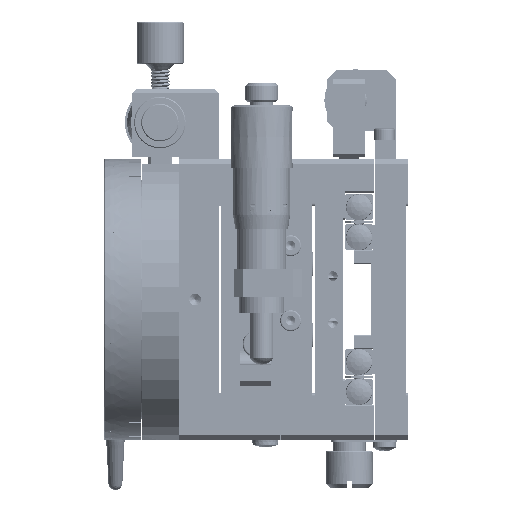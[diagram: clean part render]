
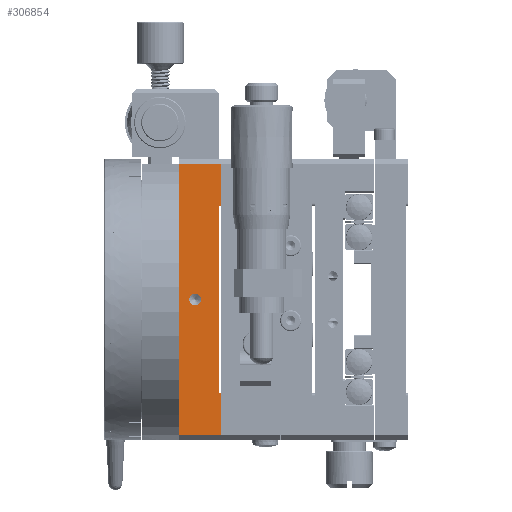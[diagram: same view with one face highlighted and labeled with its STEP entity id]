
A CAD part, left-side view. The second image highlights one B-rep face of the part: STEP entity #306854.
In plain terms, the highlighted planar face has unit normal (-1, 0, 0).
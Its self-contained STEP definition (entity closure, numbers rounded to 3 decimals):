
#1898 = VERTEX_POINT ( 'NONE', #326189 ) ;
#9456 = VERTEX_POINT ( 'NONE', #124717 ) ;
#9971 = LINE ( 'NONE', #13594, #19813 ) ;
#13594 = CARTESIAN_POINT ( 'NONE',  ( -5.161, 61.734, 9.526 ) ) ;
#19813 = VECTOR ( 'NONE', #178521, 1000. ) ;
#33230 = ORIENTED_EDGE ( 'NONE', *, *, #120373, .F. ) ;
#38783 = CARTESIAN_POINT ( 'NONE',  ( -5.161, 70.734, 20.526 ) ) ;
#40155 = VECTOR ( 'NONE', #354498, 1000. ) ;
#44001 = VERTEX_POINT ( 'NONE', #180701 ) ;
#45933 = ORIENTED_EDGE ( 'NONE', *, *, #116168, .F. ) ;
#46695 = CARTESIAN_POINT ( 'NONE',  ( -5.161, 65.984, 38.526 ) ) ;
#49897 = ORIENTED_EDGE ( 'NONE', *, *, #124668, .T. ) ;
#60315 = ORIENTED_EDGE ( 'NONE', *, *, #312095, .T. ) ;
#60417 = CARTESIAN_POINT ( 'NONE',  ( -5.161, 70.734, 9.526 ) ) ;
#62248 = VERTEX_POINT ( 'NONE', #69317 ) ;
#63943 = DIRECTION ( 'NONE',  ( -1., 0., 0. ) ) ;
#65068 = EDGE_CURVE ( 'NONE', #289056, #110673, #9971, .T. ) ;
#69317 = CARTESIAN_POINT ( 'NONE',  ( -5.161, 61.734, 58.526 ) ) ;
#72891 = EDGE_CURVE ( 'NONE', #1898, #44001, #161106, .T. ) ;
#79260 = CIRCLE ( 'NONE', #278076, 1.25 ) ;
#82456 = CARTESIAN_POINT ( 'NONE',  ( -5.161, 61.734, 67.526 ) ) ;
#88293 = LINE ( 'NONE', #284383, #114762 ) ;
#102501 = CARTESIAN_POINT ( 'NONE',  ( -5.161, 62.234, 18.526 ) ) ;
#103697 = EDGE_LOOP ( 'NONE', ( #45933 ) ) ;
#105510 = VERTEX_POINT ( 'NONE', #82456 ) ;
#110673 = VERTEX_POINT ( 'NONE', #236315 ) ;
#114762 = VECTOR ( 'NONE', #145091, 1000. ) ;
#116168 = EDGE_CURVE ( 'NONE', #134532, #134532, #79260, .T. ) ;
#120373 = EDGE_CURVE ( 'NONE', #246040, #9456, #355710, .T. ) ;
#122793 = DIRECTION ( 'NONE',  ( 0., 0., 1. ) ) ;
#124668 = EDGE_CURVE ( 'NONE', #105510, #9456, #242324, .T. ) ;
#124717 = CARTESIAN_POINT ( 'NONE',  ( -5.161, 70.734, 67.526 ) ) ;
#134532 = VERTEX_POINT ( 'NONE', #46695 ) ;
#135771 = DIRECTION ( 'NONE',  ( 0., 0., 1. ) ) ;
#137295 = VECTOR ( 'NONE', #335995, 1000. ) ;
#139319 = VERTEX_POINT ( 'NONE', #228915 ) ;
#141933 = ORIENTED_EDGE ( 'NONE', *, *, #172834, .T. ) ;
#145091 = DIRECTION ( 'NONE',  ( 0., 0., -1. ) ) ;
#147031 = DIRECTION ( 'NONE',  ( -1., 0., 0. ) ) ;
#148201 = DIRECTION ( 'NONE',  ( 0., 0., 1. ) ) ;
#148436 = LINE ( 'NONE', #232769, #274502 ) ;
#150044 = EDGE_CURVE ( 'NONE', #246040, #289056, #88293, .T. ) ;
#161106 = LINE ( 'NONE', #102501, #272693 ) ;
#162022 = LINE ( 'NONE', #239214, #40155 ) ;
#163714 = ORIENTED_EDGE ( 'NONE', *, *, #72891, .T. ) ;
#172834 = EDGE_CURVE ( 'NONE', #62248, #105510, #162022, .T. ) ;
#173895 = FACE_BOUND ( 'NONE', #103697, .T. ) ;
#177258 = AXIS2_PLACEMENT_3D ( 'NONE', #314962, #63943, #148201 ) ;
#178521 = DIRECTION ( 'NONE',  ( 0., -1., 0. ) ) ;
#180701 = CARTESIAN_POINT ( 'NONE',  ( -5.161, 62.234, 18.526 ) ) ;
#200408 = CARTESIAN_POINT ( 'NONE',  ( -5.161, 62.234, 58.526 ) ) ;
#218404 = DIRECTION ( 'NONE',  ( 0., 1., 0. ) ) ;
#221305 = VECTOR ( 'NONE', #218404, 1000. ) ;
#221410 = ORIENTED_EDGE ( 'NONE', *, *, #150044, .T. ) ;
#227540 = EDGE_CURVE ( 'NONE', #110673, #1898, #148436, .T. ) ;
#228915 = CARTESIAN_POINT ( 'NONE',  ( -5.161, 62.234, 58.526 ) ) ;
#231777 = EDGE_LOOP ( 'NONE', ( #141933, #49897, #33230, #221410, #325085, #353414, #163714, #247014, #60315 ) ) ;
#232769 = CARTESIAN_POINT ( 'NONE',  ( -5.161, 61.734, 38.526 ) ) ;
#236315 = CARTESIAN_POINT ( 'NONE',  ( -5.161, 61.734, 9.526 ) ) ;
#239214 = CARTESIAN_POINT ( 'NONE',  ( -5.161, 61.734, 38.526 ) ) ;
#242324 = LINE ( 'NONE', #302665, #221305 ) ;
#242959 = EDGE_CURVE ( 'NONE', #139319, #44001, #359867, .T. ) ;
#246040 = VERTEX_POINT ( 'NONE', #38783 ) ;
#247014 = ORIENTED_EDGE ( 'NONE', *, *, #242959, .F. ) ;
#272693 = VECTOR ( 'NONE', #272882, 1000. ) ;
#272882 = DIRECTION ( 'NONE',  ( 0., 1., 0. ) ) ;
#273082 = VECTOR ( 'NONE', #135771, 1000. ) ;
#274502 = VECTOR ( 'NONE', #122793, 1000. ) ;
#278076 = AXIS2_PLACEMENT_3D ( 'NONE', #286326, #147031, #310144 ) ;
#279261 = LINE ( 'NONE', #200408, #359216 ) ;
#284383 = CARTESIAN_POINT ( 'NONE',  ( -5.161, 70.734, 38.526 ) ) ;
#284701 = DIRECTION ( 'NONE',  ( 0., -1., 0. ) ) ;
#285681 = PLANE ( 'NONE',  #177258 ) ;
#286326 = CARTESIAN_POINT ( 'NONE',  ( -5.161, 67.234, 38.526 ) ) ;
#289056 = VERTEX_POINT ( 'NONE', #60417 ) ;
#302665 = CARTESIAN_POINT ( 'NONE',  ( -5.161, 61.734, 67.526 ) ) ;
#306700 = CARTESIAN_POINT ( 'NONE',  ( -5.161, 62.234, -67.898 ) ) ;
#306854 = ADVANCED_FACE ( 'NONE', ( #173895, #342459 ), #285681, .T. ) ;
#310144 = DIRECTION ( 'NONE',  ( 0., -1., 0. ) ) ;
#312095 = EDGE_CURVE ( 'NONE', #139319, #62248, #279261, .T. ) ;
#314962 = CARTESIAN_POINT ( 'NONE',  ( -5.161, 61.734, 38.526 ) ) ;
#325085 = ORIENTED_EDGE ( 'NONE', *, *, #65068, .T. ) ;
#326189 = CARTESIAN_POINT ( 'NONE',  ( -5.161, 61.734, 18.526 ) ) ;
#335428 = CARTESIAN_POINT ( 'NONE',  ( -5.161, 70.734, 38.526 ) ) ;
#335995 = DIRECTION ( 'NONE',  ( 0., 0., -1. ) ) ;
#342459 = FACE_OUTER_BOUND ( 'NONE', #231777, .T. ) ;
#353414 = ORIENTED_EDGE ( 'NONE', *, *, #227540, .T. ) ;
#354498 = DIRECTION ( 'NONE',  ( 0., 0., 1. ) ) ;
#355710 = LINE ( 'NONE', #335428, #273082 ) ;
#359216 = VECTOR ( 'NONE', #284701, 1000. ) ;
#359867 = LINE ( 'NONE', #306700, #137295 ) ;
